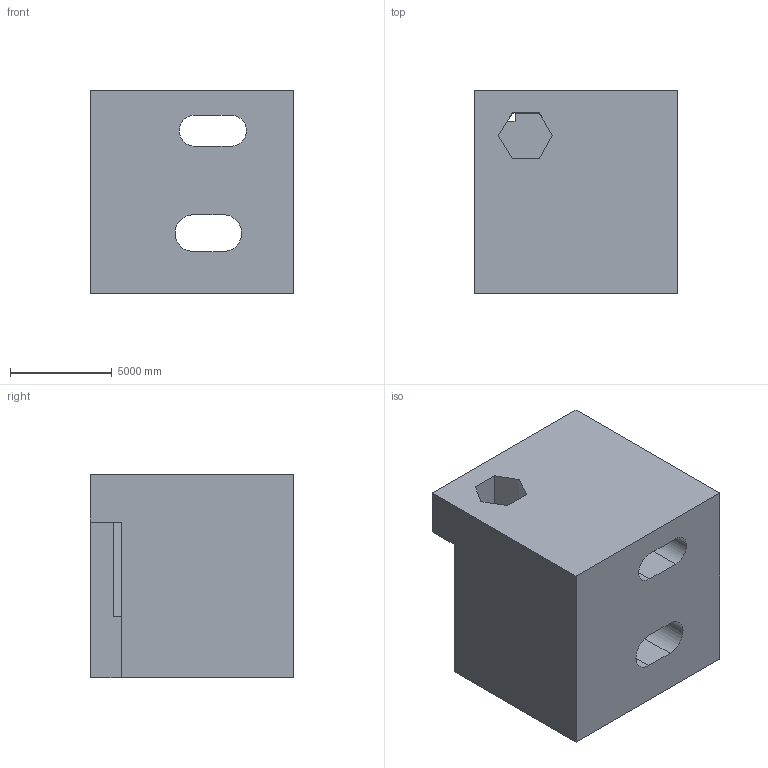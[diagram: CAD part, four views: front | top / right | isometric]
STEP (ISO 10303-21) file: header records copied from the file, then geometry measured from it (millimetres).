
FILE_DESCRIPTION (( 'STEP AP203' ), '1' );
FILE_NAME ('436.STEP', '2022-07-29T11:16:30', ( 'user' ), ( '' ), 'SwSTEP 2.0', 'SolidWorks 2021', '' );
FILE_SCHEMA (( 'CONFIG_CONTROL_DESIGN' ));
Length unit declared in the file: centimetre
Products named in the file (1): 436
Bounding box: 10000 x 10000 x 10000 mm (x, y, z)
Volume: 836647467532.2 mm3; surface area: 802480879.1 mm2
Topology: 1 solids, 1 shells, 28 faces, 81 edges, 54 vertices
Faces by surface type: plane 22, cylinder 6
Entity records: 1006 total; most frequent: CARTESIAN_POINT 164, ORIENTED_EDGE 162, DIRECTION 151, EDGE_CURVE 81, VECTOR 69, LINE 69, VERTEX_POINT 54, AXIS2_PLACEMENT_3D 41
